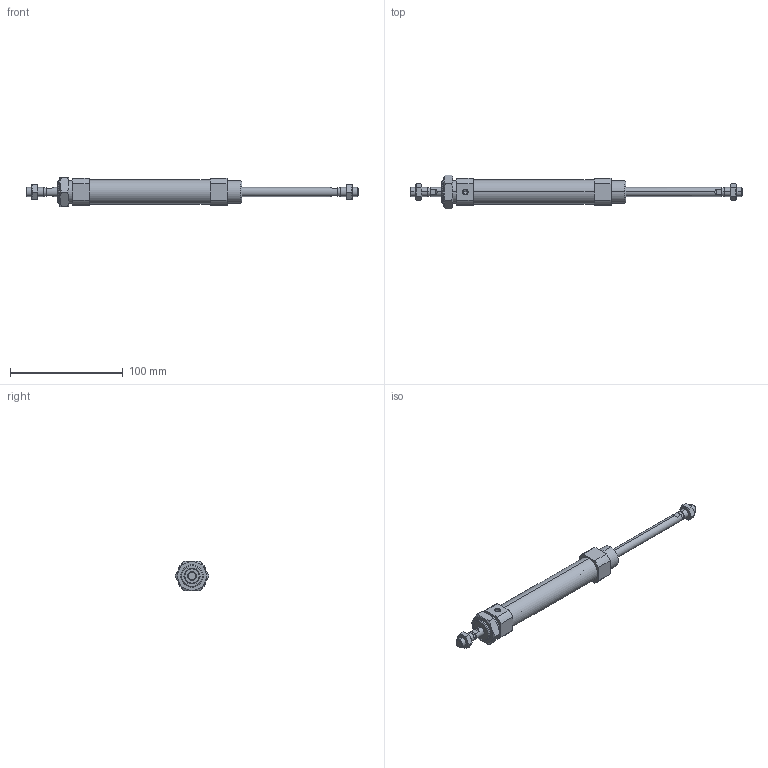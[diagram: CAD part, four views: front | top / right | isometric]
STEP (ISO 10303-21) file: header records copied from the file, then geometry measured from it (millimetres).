
FILE_DESCRIPTION (( 'STEP AP203' ), '1' );
FILE_NAME ('CSM2B20-75-P.STEP', '2020-07-20T15:28:49', ( '' ), ( '' ), 'SwSTEP 2.0', 'SolidWorks 2019', '' );
FILE_SCHEMA (( 'CONFIG_CONTROL_DESIGN' ));
Length unit declared in the file: millimetre
Products named in the file (1): CSM2B20-75-P
Bounding box: 294 x 30.02 x 26 mm (x, y, z)
Volume: 52599.7 mm3; surface area: 31592.7 mm2
Topology: 5 solids, 5 shells, 154 faces, 364 edges, 229 vertices
Faces by surface type: plane 62, cone 46, cylinder 46
Entity records: 5475 total; most frequent: CARTESIAN_POINT 1856, DIRECTION 748, ORIENTED_EDGE 724, EDGE_CURVE 362, AXIS2_PLACEMENT_3D 297, VERTEX_POINT 229, EDGE_LOOP 177, ADVANCED_FACE 154
